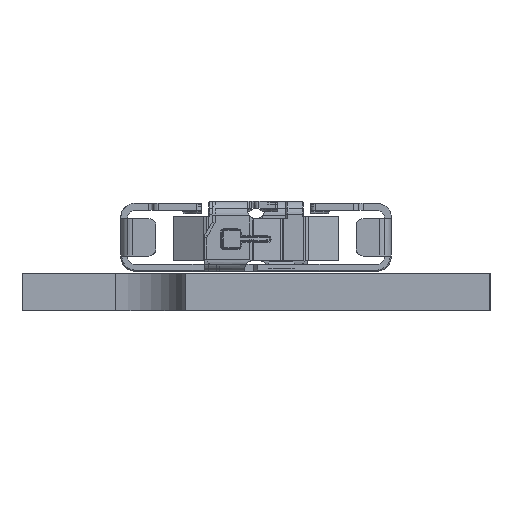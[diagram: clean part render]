
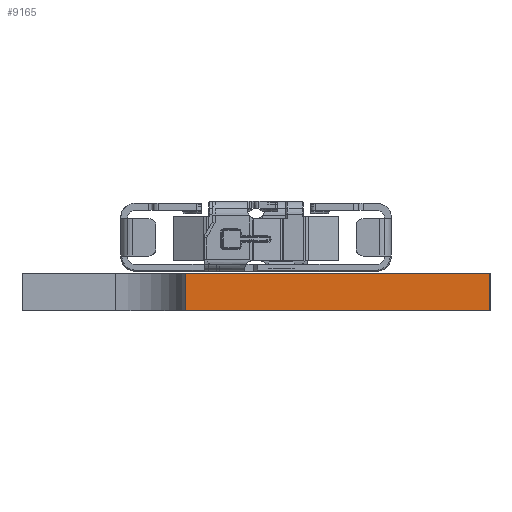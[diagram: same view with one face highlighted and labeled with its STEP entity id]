
A CAD part, left-side view. The second image highlights one B-rep face of the part: STEP entity #9165.
In plain terms, the highlighted planar face has unit normal (-1, 0, 0).
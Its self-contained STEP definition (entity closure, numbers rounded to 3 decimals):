
#9157=AXIS2_PLACEMENT_3D('Plane Axis2P3D',#9154,#9155,#9156) ;
#500=CARTESIAN_POINT('Vertex',(-9.6,-10.,-1.6)) ;
#503=CARTESIAN_POINT('Line Origine',(-9.6,-3.5,-1.6)) ;
#507=CARTESIAN_POINT('Vertex',(-9.6,3.,-1.6)) ;
#1204=CARTESIAN_POINT('Line Origine',(-9.6,3.,-0.8)) ;
#1208=CARTESIAN_POINT('Vertex',(-9.6,3.,0.)) ;
#3100=CARTESIAN_POINT('Line Origine',(-9.6,-3.5,0.)) ;
#3104=CARTESIAN_POINT('Vertex',(-9.6,-10.,0.)) ;
#9137=CARTESIAN_POINT('Line Origine',(-9.6,-10.,-0.8)) ;
#9154=CARTESIAN_POINT('Axis2P3D Location',(-9.6,10.,0.)) ;
#504=DIRECTION('Vector Direction',(0.,-1.,0.)) ;
#1205=DIRECTION('Vector Direction',(0.,0.,1.)) ;
#3101=DIRECTION('Vector Direction',(0.,-1.,0.)) ;
#9138=DIRECTION('Vector Direction',(0.,0.,-1.)) ;
#9155=DIRECTION('Axis2P3D Direction',(1.,0.,0.)) ;
#9156=DIRECTION('Axis2P3D XDirection',(0.,-1.,0.)) ;
#505=VECTOR('Line Direction',#504,1.) ;
#1206=VECTOR('Line Direction',#1205,1.) ;
#3102=VECTOR('Line Direction',#3101,1.) ;
#9139=VECTOR('Line Direction',#9138,1.) ;
#9160=ORIENTED_EDGE('',*,*,#1210,.F.) ;
#9161=ORIENTED_EDGE('',*,*,#509,.T.) ;
#9162=ORIENTED_EDGE('',*,*,#9141,.F.) ;
#9163=ORIENTED_EDGE('',*,*,#3106,.F.) ;
#9165=ADVANCED_FACE('PartBody',(#9164),#9158,.F.) ;
#509=EDGE_CURVE('',#508,#501,#506,.T.) ;
#1210=EDGE_CURVE('',#508,#1209,#1207,.T.) ;
#3106=EDGE_CURVE('',#1209,#3105,#3103,.T.) ;
#9141=EDGE_CURVE('',#3105,#501,#9140,.T.) ;
#9159=EDGE_LOOP('',(#9160,#9161,#9162,#9163)) ;
#9164=FACE_OUTER_BOUND('',#9159,.T.) ;
#506=LINE('Line',#503,#505) ;
#1207=LINE('Line',#1204,#1206) ;
#3103=LINE('Line',#3100,#3102) ;
#9140=LINE('Line',#9137,#9139) ;
#9158=PLANE('',#9157) ;
#501=VERTEX_POINT('',#500) ;
#508=VERTEX_POINT('',#507) ;
#1209=VERTEX_POINT('',#1208) ;
#3105=VERTEX_POINT('',#3104) ;
